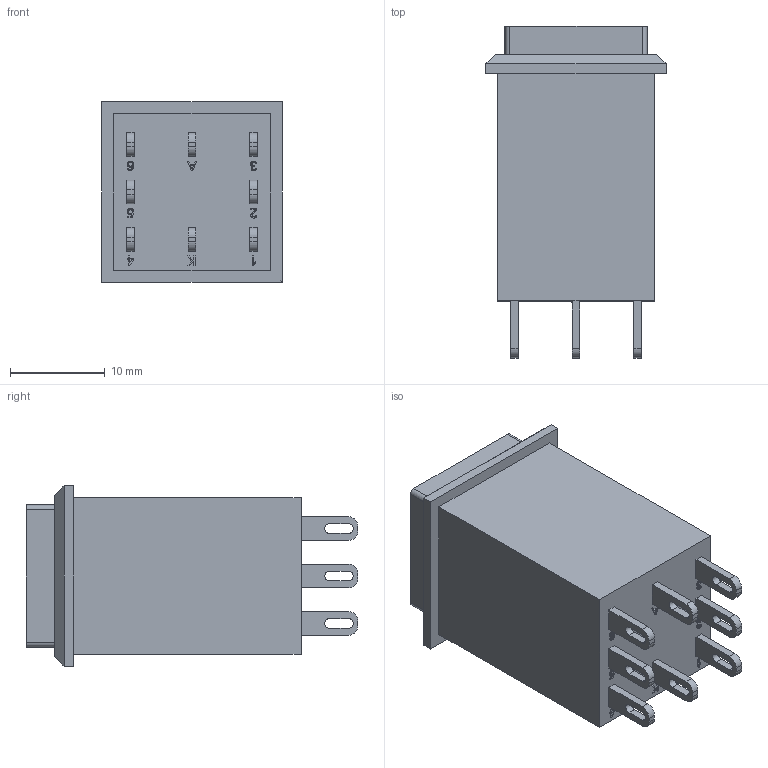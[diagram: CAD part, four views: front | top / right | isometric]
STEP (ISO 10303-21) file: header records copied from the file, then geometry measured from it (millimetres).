
FILE_DESCRIPTION (( 'STEP AP214' ), '1' );
FILE_NAME ('KD2-22-Y.STEP', '2011-02-01T05:37:27', ( 'vpeshkov' ), ( 'cad-design.ru' ), 'SwSTEP 2.0', 'SolidWorks 2009', '' );
FILE_SCHEMA (( 'AUTOMOTIVE_DESIGN' ));
Length unit declared in the file: millimetre
Products named in the file (1): KD2-22-Y
Bounding box: 19 x 35 x 19 mm (x, y, z)
Volume: 7969.3 mm3; surface area: 2898.5 mm2
Topology: 1 solids, 1 shells, 231 faces, 620 edges, 412 vertices
Faces by surface type: plane 144, bspline 51, cylinder 36
Entity records: 13719 total; most frequent: CARTESIAN_POINT 5797, ORIENTED_EDGE 1240, DIRECTION 952, EDGE_CURVE 620, VECTOR 446, LINE 446, VERTEX_POINT 412, EDGE_LOOP 268
